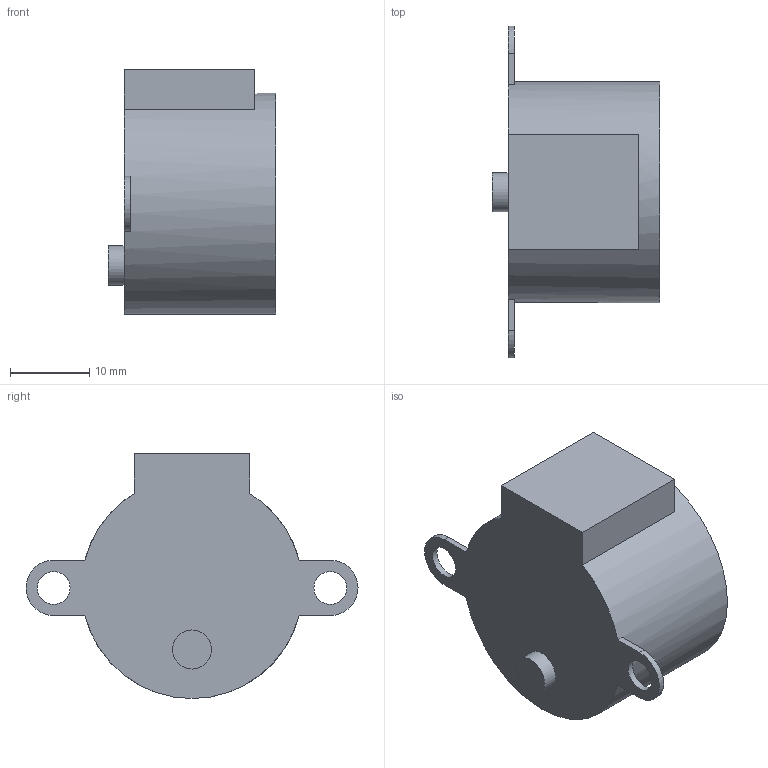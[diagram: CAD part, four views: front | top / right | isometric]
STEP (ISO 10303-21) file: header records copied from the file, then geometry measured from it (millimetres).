
FILE_DESCRIPTION(/* description */ ('STEP AP242 Edition 2','CAx-IF Rec.Pracs.---Representation and Presentation of Product Manufacturing Information (PMI)---4.0---2014-10-13','CAx-IF Rec.Pracs.---3D Tessellated Geometry---0.4---2014-09-14','2;1','CAx-IF Rec.Pracs.---User Defined Attributes---1.5---2016-08-15'),/* implementation_level */ '2;1');
FILE_NAME(/* name */ 'Assembly 1 - motor_x',/* time_stamp */ '2026-02-04T12:55:11Z',/* author */ (''),/* organization */ (''),/* preprocessor_version */ 'ST-DEVELOPER v20',/* originating_system */ 'ONSHAPE BY PTC INC, 1.210',/* authorisation */ ' ');
FILE_SCHEMA (('AP242_MANAGED_MODEL_BASED_3D_ENGINEERING_MIM_LF { 1 0 10303 442 3 1 4 }'));
Length unit declared in the file: metre
Products named in the file (1): motor_x
Bounding box: 21.2 x 42 x 31 mm (x, y, z)
Volume: 12789.2 mm3; surface area: 3376.6 mm2
Topology: 1 solids, 1 shells, 19 faces, 48 edges, 32 vertices
Faces by surface type: plane 13, cylinder 6
Full cylindrical faces by diameter (mm): 4.15 x2, 4.95 x1, 28 x1
Entity records: 580 total; most frequent: DIRECTION 100, CARTESIAN_POINT 94, ORIENTED_EDGE 86, EDGE_CURVE 43, AXIS2_PLACEMENT_3D 37, VERTEX_POINT 31, EDGE_LOOP 28, FACE_BOUND 28
